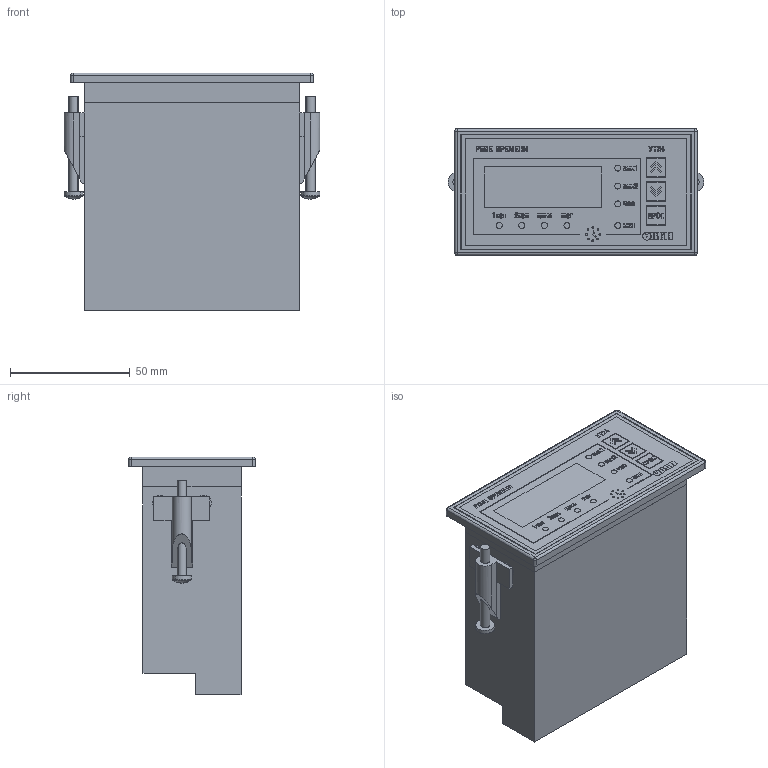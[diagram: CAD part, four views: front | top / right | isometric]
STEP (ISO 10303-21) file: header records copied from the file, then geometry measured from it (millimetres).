
FILE_DESCRIPTION (( 'STEP AP214' ), '1' );
FILE_NAME ('ﾓﾒ24ﾙ2.STEP', '2015-06-06T17:32:48', ( 'Vika' ), ( '' ), 'SwSTEP 2.0', 'SolidWorks 2014', '' );
FILE_SCHEMA (( 'AUTOMOTIVE_DESIGN' ));
Length unit declared in the file: millimetre
Products named in the file (7): ÓÒ24Ù2_Êëåììà âèíòîâàÿ; pan cross head_am_B18.6.7M - M4 x 0.7 x 40 Type I Cross Recessed PHMS --40N; ÓÒ24Ù2_Ñòîïîð âèíòîâîé; ÓÒ24Ù2_Êîðïóñ Ù2; ÓÒ24Ù2_Ðåçèíà  48õ96,5; ﾓﾒ24ﾙ2; ÓÒ24Ù2_Øèëüäèê
Assembly tree (23 placements, depth 2):
  ﾓﾒ24ﾙ2
    ÓÒ24Ù2_Êîðïóñ Ù2
    ÓÒ24Ù2_Êëåììà âèíòîâàÿ  x16
    ÓÒ24Ù2_Øèëüäèê
    ÓÒ24Ù2_Ðåçèíà  48õ96,5
    ÓÒ24Ù2_Ñòîïîð âèíòîâîé  x2
    pan cross head_am_B18.6.7M - M4 x 0.7 x 40 Type I Cross Recessed PHMS --40N  x2
Bounding box: 107 x 53 x 99.5 mm (x, y, z)
Volume: 355364 mm3; surface area: 75090.2 mm2
Topology: 41 solids, 41 shells, 1951 faces, 5127 edges, 3370 vertices
Faces by surface type: plane 1443, bspline 266, cylinder 230, sphere 8, torus 4
Entity records: 49283 total; most frequent: CARTESIAN_POINT 10136, ORIENTED_EDGE 6494, DIRECTION 4815, EDGE_CURVE 3247, VECTOR 2573, LINE 2573, VERTEX_POINT 2154, EDGE_LOOP 1377
